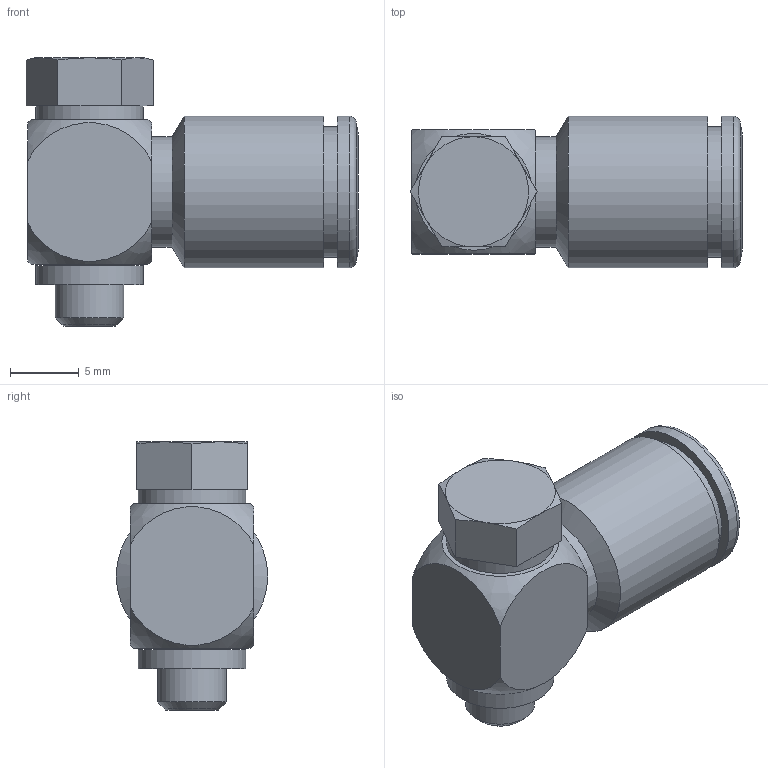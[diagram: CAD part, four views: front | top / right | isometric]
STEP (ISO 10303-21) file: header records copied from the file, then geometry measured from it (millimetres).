
FILE_DESCRIPTION(('Bauteilbeschreibung','HiCAD-Model','HiCAD-STEP-TRANSLATION','Bauteilbeschreibung'),'2;1');
FILE_NAME('B:/ABGLEICH/ZEICHNUNGEN/STEP FÜR INTERNET/STEP/S11213_IPSO_017_6_M5.STP','2011-08-29T12:26:43+00:00',('Konstrukteur'),('Konstrukteur Firma GmbH'),' HiCAD neXt 2008, Step 3.1.1401.2J ','HiCAD neXt 2008','confidential');
FILE_SCHEMA(('AUTOMOTIVE_DESIGN { 1 2 10303 214 0 1 1 1 }'));
Length unit declared in the file: millimetre
Products named in the file (8): S11213_IPSO_017_6_M5; A4111; A41110; DIN 13_M5; A00031; A00041; DR6_1_NEU; R201213_N
Assembly tree (7 placements, depth 3):
  S11213_IPSO_017_6_M5
    A4111
    A41110
      DIN 13_M5
    A00031
    A00041
    DR6_1_NEU
    R201213_N
Bounding box: 24.12 x 11 x 19.5 mm (x, y, z)
Volume: 1709.9 mm3; surface area: 2914.7 mm2
Topology: 6 solids, 6 shells, 92 faces, 200 edges, 126 vertices
Faces by surface type: plane 36, cylinder 30, cone 23, sphere 2, torus 1
Full cylindrical faces by diameter (mm): 1.8 x2, 2.3 x1, 4 x2, 4.019 x2, 5 x5, 5.2 x1, 5.3 x1, 5.5 x1, 6.1 x1, 6.2 x1, 7.8 x2, 8 x1, 8.3 x1, 9 x1, 9.5 x1, 9.6 x1, 11 x2
Entity records: 6324 total; most frequent: CARTESIAN_POINT 3745, DIRECTION 414, ORIENTED_EDGE 260, AXIS2_PLACEMENT_3D 195, EDGE_LOOP 164, COLOUR_RGB 131, PRESENTATION_STYLE_ASSIGNMENT 131, EDGE_CURVE 130
